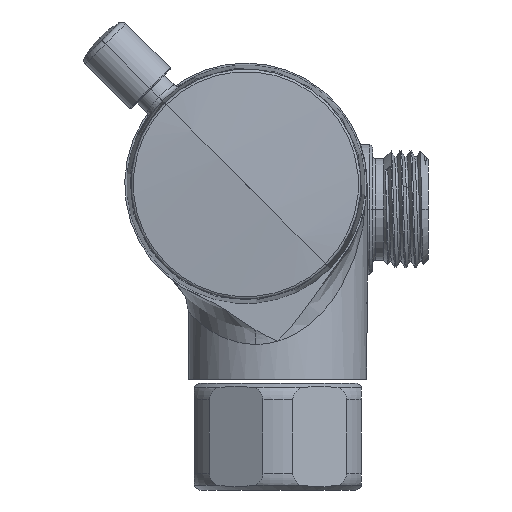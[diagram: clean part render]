
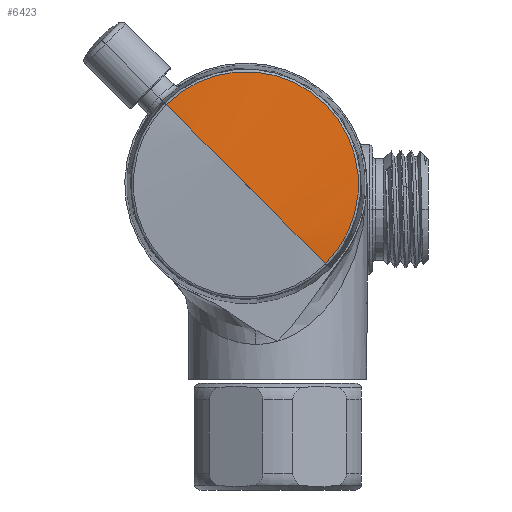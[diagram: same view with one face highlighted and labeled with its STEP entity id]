
A CAD part, left-side view. The second image highlights one B-rep face of the part: STEP entity #6423.
In plain terms, the highlighted spherical face has radius 150 mm.
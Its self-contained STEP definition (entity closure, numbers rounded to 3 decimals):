
#6003=CARTESIAN_POINT('',(11.8,0.,0.));
#6004=DIRECTION('',(0.,-0.707,0.707));
#6005=DIRECTION('',(-0.991,0.095,0.095));
#6006=AXIS2_PLACEMENT_3D('',#6003,#6004,#6005);
#6008=CARTESIAN_POINT('',(11.8,0.,0.));
#6009=DIRECTION('',(0.,0.707,-0.707));
#6010=DIRECTION('',(-0.991,-0.095,-0.095));
#6011=AXIS2_PLACEMENT_3D('',#6008,#6009,#6010);
#6013=CARTESIAN_POINT('',(-136.832,0.,0.));
#6014=DIRECTION('',(-1.,0.,0.));
#6015=DIRECTION('',(0.,-0.707,-0.707));
#6016=AXIS2_PLACEMENT_3D('',#6013,#6014,#6015);
#6103=CARTESIAN_POINT('',(-136.832,-14.293,
-14.293));
#6104=CARTESIAN_POINT('',(-136.832,14.293,14.293));
#6105=VERTEX_POINT('',#6103);
#6106=VERTEX_POINT('',#6104);
#6107=CARTESIAN_POINT('',(-138.2,0.,0.));
#6108=VERTEX_POINT('',#6107);
#6412=CARTESIAN_POINT('',(11.8,0.,0.));
#6413=DIRECTION('',(-1.,0.,0.));
#6414=DIRECTION('',(0.,-0.707,-0.707));
#6415=AXIS2_PLACEMENT_3D('',#6412,#6413,#6414);
#6416=SPHERICAL_SURFACE('',#6415,150.);
#6418=ORIENTED_EDGE('',*,*,#6417,.F.);
#6419=ORIENTED_EDGE('',*,*,#6400,.T.);
#6420=ORIENTED_EDGE('',*,*,#6398,.F.);
#6421=EDGE_LOOP('',(#6418,#6419,#6420));
#6422=FACE_OUTER_BOUND('',#6421,.F.);
#6007=CIRCLE('',#6006,150.);
#6012=CIRCLE('',#6011,150.);
#6017=CIRCLE('',#6016,20.213);
#6398=EDGE_CURVE('',#6106,#6108,#6007,.T.);
#6400=EDGE_CURVE('',#6105,#6108,#6012,.T.);
#6417=EDGE_CURVE('',#6105,#6106,#6017,.T.);
#6423=ADVANCED_FACE('',(#6422),#6416,.T.);
